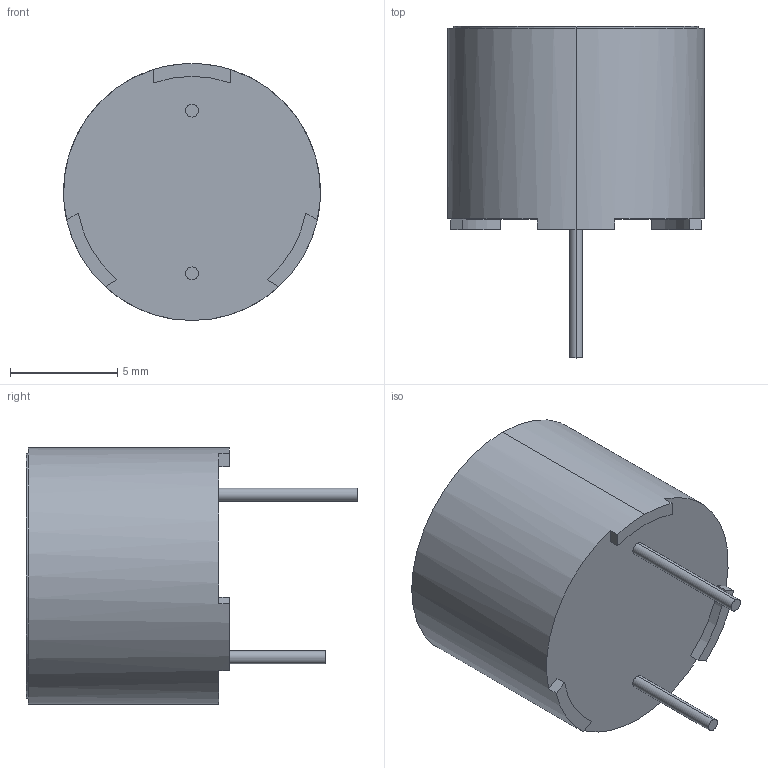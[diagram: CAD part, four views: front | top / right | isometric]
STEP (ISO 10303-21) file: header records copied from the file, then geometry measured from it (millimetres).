
FILE_DESCRIPTION (( 'STEP AP214' ), '1' );
FILE_NAME ('Same_Sky_CMI-1295-03TH.step', '2025-03-13T15:38:26', ( '' ), ( '' ), 'SwSTEP 2.0', 'SolidWorks 2024', '' );
FILE_SCHEMA (( 'AUTOMOTIVE_DESIGN' ));
Length unit declared in the file: inch
Products named in the file (1): Same_Sky_CMI-1295-03TH
Bounding box: 12 x 15.5 x 12 mm (x, y, z)
Volume: 1008.4 mm3; surface area: 625.8 mm2
Topology: 3 solids, 3 shells, 57 faces, 138 edges, 92 vertices
Faces by surface type: plane 32, cylinder 25
Entity records: 1737 total; most frequent: DIRECTION 310, CARTESIAN_POINT 288, ORIENTED_EDGE 276, EDGE_CURVE 138, AXIS2_PLACEMENT_3D 114, VERTEX_POINT 92, VECTOR 82, LINE 82
